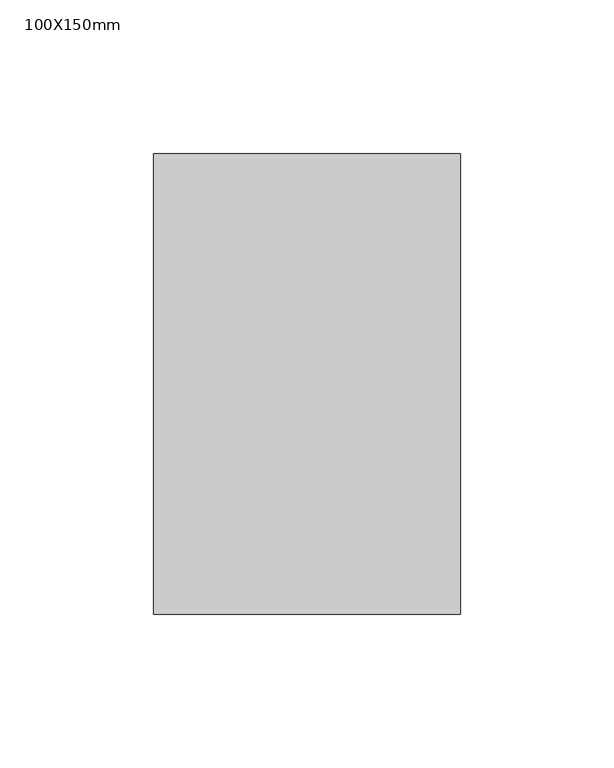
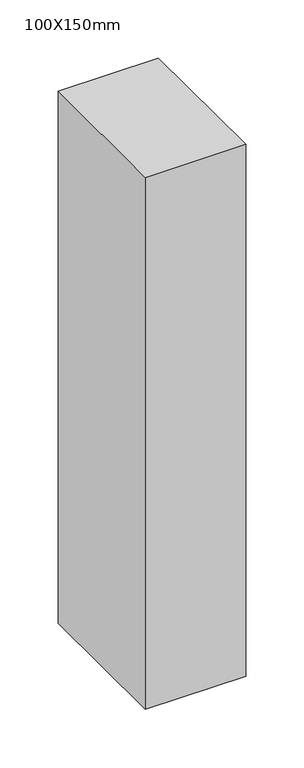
"""IFC4 building model written with IfcOpenShell, lengths in millimetres: member geometry, 矩形竖梃 : 100X150mm."""

from ifc_helpers import new_model, si_unit, frame, origin, place, context, project, spatial, polyline, outline, extrude, source, transform, mapped, element, save


def member_100x150mm_25bd5bcc(model_context):
    return source(origin(), model_context, "Body", "SweptSolid", [
        extrude(outline(polyline([(50.0, 75.0), (50.0, -75.0), (-50.0, -75.0), (-50.0, 75.0), (50.0, 75.0)])), frame((0.0, 0.0, -560.0), z_axis=(0.0, 0.0, 1.0), x_axis=(1.0, 0.0, 0.0)), (0.0, 0.0, 1.0), 560.0),
    ])


if __name__ == "__main__":
    model = new_model("IFC4")
    model_context = context("Model", 3, world=origin())
    ifc_project = project(units=[si_unit("LENGTHUNIT", "METRE", prefix="MILLI")], contexts=[model_context])
    site = spatial("IfcSite", under=ifc_project)
    building = spatial("IfcBuilding", under=site)
    placement = place(None, origin())
    member_100x150mm_shape = member_100x150mm_25bd5bcc(model_context)
    element("IfcMember", 1, ObjectType="矩形竖梃 : 100X150mm", at=placement, inside=building, context=model_context, shape_type="MappedRepresentation", body=[
        mapped(member_100x150mm_shape, transform((0.0, 0.0, 0.0), x_axis=(1.0, 0.0, 0.0), y_axis=(0.0, 1.0, 0.0), z_axis=(0.0, 0.0, 1.0))),
    ])
    save(model, "model.ifc")
